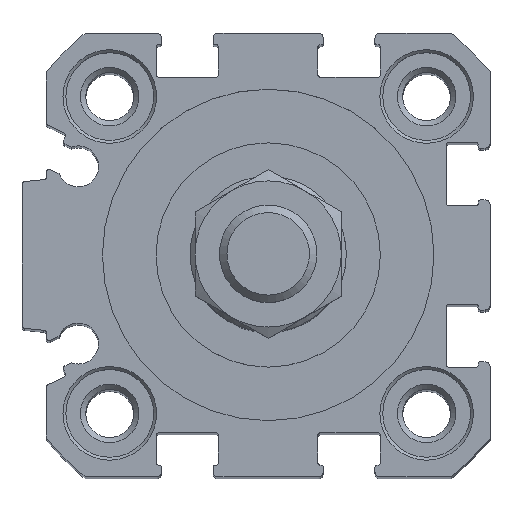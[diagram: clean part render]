
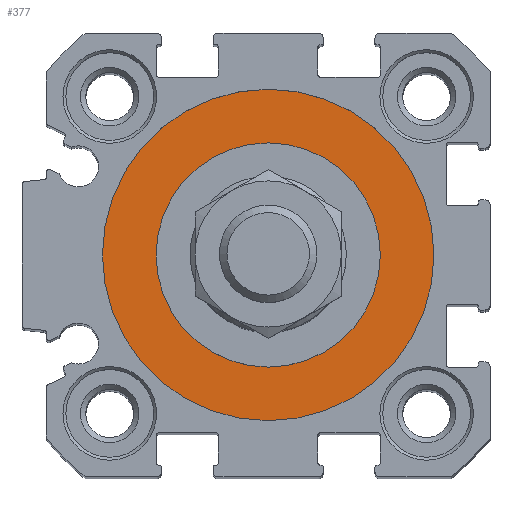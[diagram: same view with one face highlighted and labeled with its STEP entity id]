
A CAD part, top view. The second image highlights one B-rep face of the part: STEP entity #377.
In plain terms, the highlighted planar face has unit normal (0, 0, 1).
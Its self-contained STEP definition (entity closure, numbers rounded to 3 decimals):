
#377 = ADVANCED_FACE( '', ( #917, #918 ), #919, .T. );
#917 = FACE_BOUND( '', #1655, .T. );
#918 = FACE_OUTER_BOUND( '', #1656, .T. );
#919 = PLANE( '', #1657 );
#1655 = EDGE_LOOP( '', ( #2698 ) );
#1656 = EDGE_LOOP( '', ( #2699 ) );
#1657 = AXIS2_PLACEMENT_3D( '', #2700, #2701, #2702 );
#2698 = ORIENTED_EDGE( '', *, *, #4442, .F. );
#2699 = ORIENTED_EDGE( '', *, *, #4443, .T. );
#2700 = CARTESIAN_POINT( '', ( 0., 0., -2.4 ) );
#2701 = DIRECTION( '', ( 0., 0., 1. ) );
#2702 = DIRECTION( '', ( 1., 0., 0. ) );
#4442 = EDGE_CURVE( '', #5412, #5412, #5413, .T. );
#4443 = EDGE_CURVE( '', #5414, #5414, #5415, .T. );
#5412 = VERTEX_POINT( '', #6670 );
#5413 = CIRCLE( '', #6671, 11.5 );
#5414 = VERTEX_POINT( '', #6672 );
#5415 = CIRCLE( '', #6673, 17. );
#6670 = CARTESIAN_POINT( '', ( 11.5, 0., -2.4 ) );
#6671 = AXIS2_PLACEMENT_3D( '', #7996, #7997, #7998 );
#6672 = CARTESIAN_POINT( '', ( 17., 0., -2.4 ) );
#6673 = AXIS2_PLACEMENT_3D( '', #7999, #8000, #8001 );
#7996 = CARTESIAN_POINT( '', ( 0., 0., -2.4 ) );
#7997 = DIRECTION( '', ( 0., 0., 1. ) );
#7998 = DIRECTION( '', ( 1., 0., 0. ) );
#7999 = CARTESIAN_POINT( '', ( 0., 0., -2.4 ) );
#8000 = DIRECTION( '', ( 0., 0., 1. ) );
#8001 = DIRECTION( '', ( 1., 0., 0. ) );
